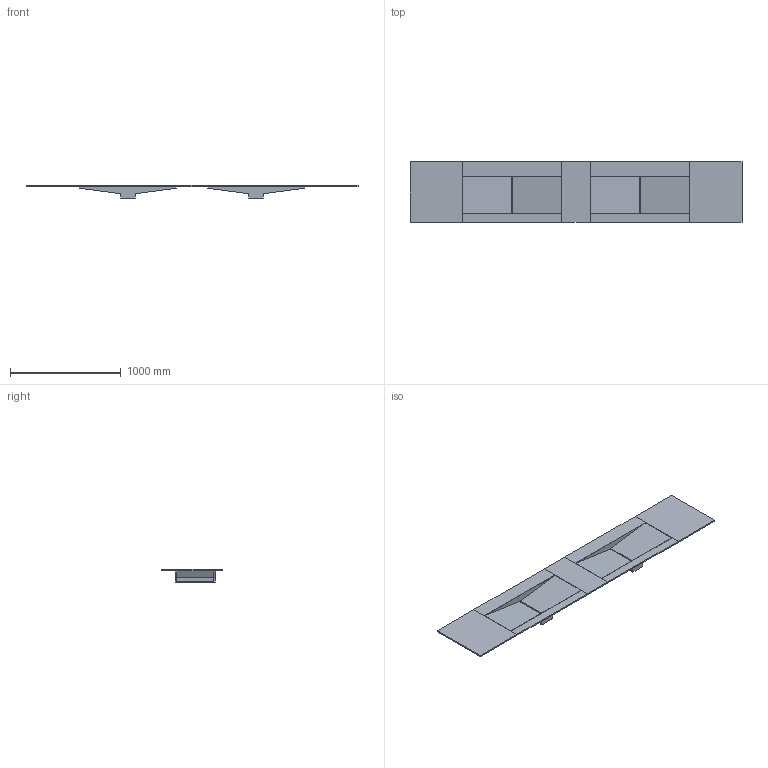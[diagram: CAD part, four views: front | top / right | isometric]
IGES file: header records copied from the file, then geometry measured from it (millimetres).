
Global section: file name: D:\Desktop\GIOVANNI\SCHEDE PRODOTTO\PIANI LAVABO\CUT\3D\MOMA DESIGN_PIANI LAVABO_CUT MODULE DOUBLE.igs; native system: Rhinoceros ( Jan 17 2018 ); preprocessor: Trout Lake IGES 012 Jan 17 2018; date: 230606.082849; units: millimetre
Bounding box: 3000 x 550 x 120 mm (x, y, z)
Surface area: 4166877.3 mm2 (no closed solid volume)
Topology: 0 solids, 0 shells, 138 faces, 696 edges, 696 vertices
Faces by surface type: bspline 138
